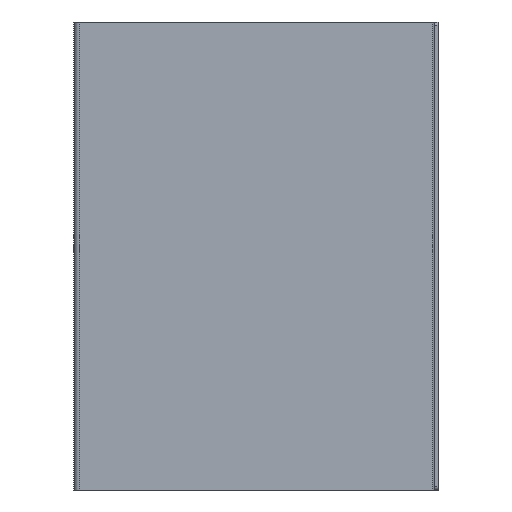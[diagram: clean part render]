
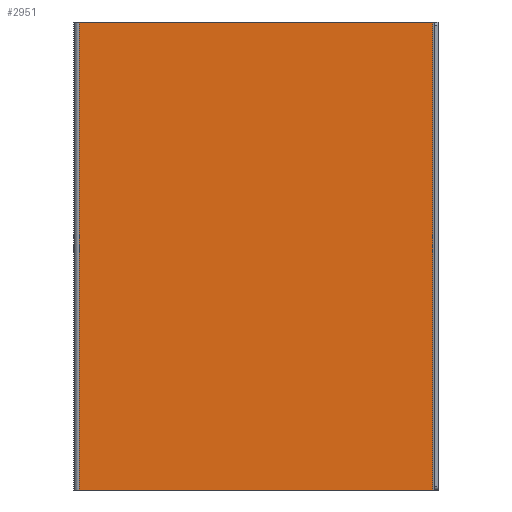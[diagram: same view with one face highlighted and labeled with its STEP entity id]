
A CAD part, left-side view. The second image highlights one B-rep face of the part: STEP entity #2951.
In plain terms, the highlighted planar face has unit normal (-1, 0, 0).
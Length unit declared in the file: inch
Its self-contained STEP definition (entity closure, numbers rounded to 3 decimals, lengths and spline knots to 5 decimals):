
#77 = DIRECTION ( 'NONE',  ( 0., -1., 0. ) ) ;
#742 = EDGE_LOOP ( 'NONE', ( #4108, #871, #6236, #2230 ) ) ;
#871 = ORIENTED_EDGE ( 'NONE', *, *, #3275, .F. ) ;
#1067 = CARTESIAN_POINT ( 'NONE',  ( -12.125, -0.197, 18. ) ) ;
#1231 = VECTOR ( 'NONE', #3089, 39.37008 ) ;
#1553 = DIRECTION ( 'NONE',  ( 0., 0., -1. ) ) ;
#1967 = CARTESIAN_POINT ( 'NONE',  ( -12.125, -0.197, 18. ) ) ;
#2017 = LINE ( 'NONE', #5793, #3458 ) ;
#2120 = VERTEX_POINT ( 'NONE', #1967 ) ;
#2230 = ORIENTED_EDGE ( 'NONE', *, *, #5247, .T. ) ;
#2364 = EDGE_CURVE ( 'NONE', #2728, #5214, #3539, .T. ) ;
#2728 = VERTEX_POINT ( 'NONE', #2968 ) ;
#2951 = ADVANCED_FACE ( 'NONE', ( #5942 ), #6487, .T. ) ;
#2968 = CARTESIAN_POINT ( 'NONE',  ( -12.125, -13.803, 0. ) ) ;
#2981 = VERTEX_POINT ( 'NONE', #4368 ) ;
#3089 = DIRECTION ( 'NONE',  ( 0., 1., 0. ) ) ;
#3275 = EDGE_CURVE ( 'NONE', #2981, #2728, #2017, .T. ) ;
#3298 = DIRECTION ( 'NONE',  ( -1., 0., 0. ) ) ;
#3438 = AXIS2_PLACEMENT_3D ( 'NONE', #4878, #3298, #77 ) ;
#3458 = VECTOR ( 'NONE', #1553, 39.37008 ) ;
#3539 = LINE ( 'NONE', #5856, #3703 ) ;
#3703 = VECTOR ( 'NONE', #4243, 39.37008 ) ;
#4091 = LINE ( 'NONE', #6822, #1231 ) ;
#4108 = ORIENTED_EDGE ( 'NONE', *, *, #2364, .F. ) ;
#4243 = DIRECTION ( 'NONE',  ( 0., 1., 0. ) ) ;
#4291 = DIRECTION ( 'NONE',  ( 0., 0., -1. ) ) ;
#4368 = CARTESIAN_POINT ( 'NONE',  ( -12.125, -13.803, 18. ) ) ;
#4878 = CARTESIAN_POINT ( 'NONE',  ( -12.125, 0., 18. ) ) ;
#4920 = VECTOR ( 'NONE', #4291, 39.37008 ) ;
#5091 = EDGE_CURVE ( 'NONE', #2981, #2120, #4091, .T. ) ;
#5214 = VERTEX_POINT ( 'NONE', #5883 ) ;
#5247 = EDGE_CURVE ( 'NONE', #2120, #5214, #6340, .T. ) ;
#5793 = CARTESIAN_POINT ( 'NONE',  ( -12.125, -13.803, 18. ) ) ;
#5856 = CARTESIAN_POINT ( 'NONE',  ( -12.125, 0., 0. ) ) ;
#5883 = CARTESIAN_POINT ( 'NONE',  ( -12.125, -0.197, 0. ) ) ;
#5942 = FACE_OUTER_BOUND ( 'NONE', #742, .T. ) ;
#6236 = ORIENTED_EDGE ( 'NONE', *, *, #5091, .T. ) ;
#6340 = LINE ( 'NONE', #1067, #4920 ) ;
#6487 = PLANE ( 'NONE',  #3438 ) ;
#6822 = CARTESIAN_POINT ( 'NONE',  ( -12.125, 0., 18. ) ) ;
